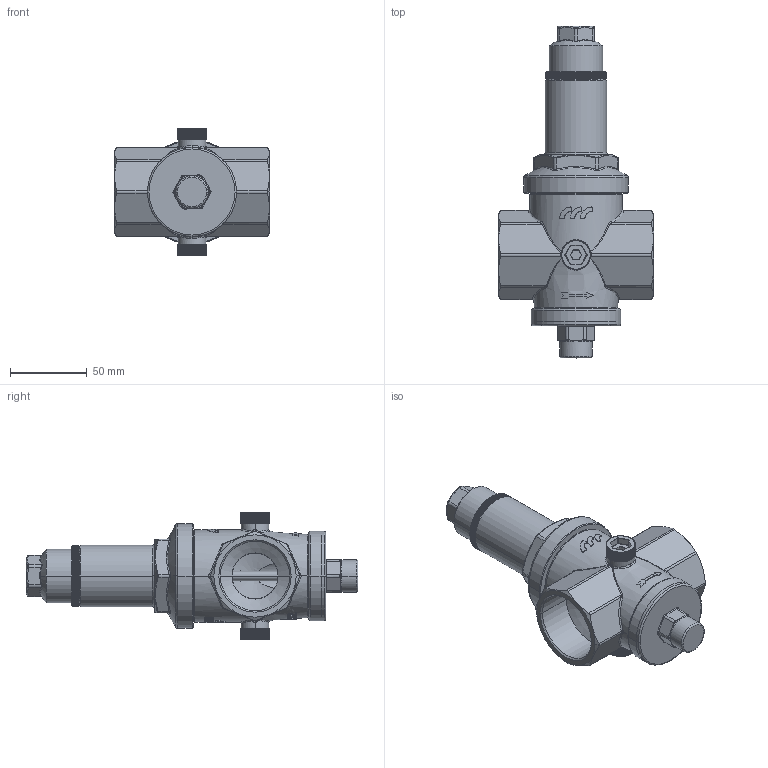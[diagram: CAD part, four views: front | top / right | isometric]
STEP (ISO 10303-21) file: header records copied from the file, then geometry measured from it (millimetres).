
FILE_DESCRIPTION((''),'2;1');
FILE_NAME('504040_ASM','2021-09-09T',('ufficiotecnico'),(''),'CREO PARAMETRIC BY PTC INC, 2016380','CREO PARAMETRIC BY PTC INC, 2016380','');
FILE_SCHEMA(('CONFIG_CONTROL_DESIGN'));
Products named in the file (9): 504040_AL; 504040_ALS_ASM; 490015_L; 504040_CL; 502032_F; 502032_BL; 502032_IL; 524032_D; 504040_ASM
Assembly tree (9 placements, depth 3):
  504040_ASM
    504040_ALS_ASM
      504040_AL
    490015_L  x2
    504040_CL
    502032_F
    502032_BL
    502032_IL
    524032_D
Bounding box: 101 x 216 x 83 mm (x, y, z)
Volume: 209197.2 mm3; surface area: 108048.8 mm2
Topology: 10 solids, 10 shells, 6310 faces, 13851 edges, 7610 vertices
Faces by surface type: plane 4416, cylinder 1196, torus 230, bspline 212, extrusion 111, cone 105, sphere 40
Entity records: 205275 total; most frequent: CARTESIAN_POINT 88914, ORIENTED_EDGE 25850, DIRECTION 20322, EDGE_CURVE 12925, VERTEX_POINT 7066, AXIS2_PLACEMENT_3D 6961, VECTOR 6400, LINE 6289
